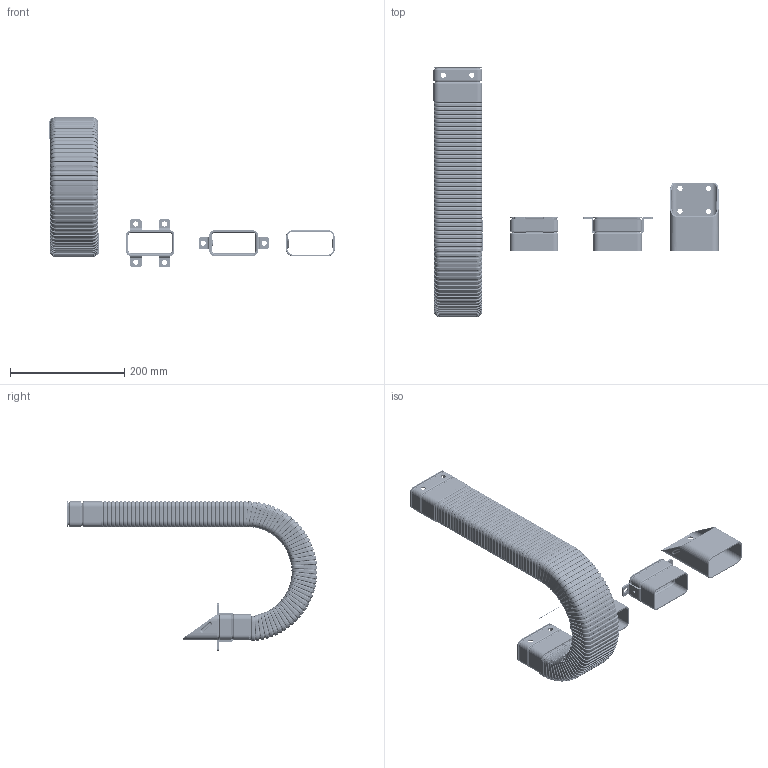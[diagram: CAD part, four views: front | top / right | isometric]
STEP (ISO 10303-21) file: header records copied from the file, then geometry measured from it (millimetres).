
FILE_DESCRIPTION((''),'2;1');
FILE_NAME('C:\Uebbing\PARAMETERKETTEN\SFK\SFK 22 N\SFK 22 N STEP.stp','2013-04-24T08:55:13',('Uebbing'),(''),'Autodesk Inventor 10','Autodesk Inventor 10','');
FILE_SCHEMA(('AUTOMOTIVE_DESIGN { 1 0 10303 214 1 1 1 1 }'));
Length unit declared in the file: millimetre
Products named in the file (11): SFK 22 N STEP; Achse; SFK 22 N Schrägflansch; SFK 22 N Rippe; SFK 22 N Normalanschluss; SFK 22 N Anschluss A; Anschlusswinkel; Imbusschraube M6x5 Senkkopf; SFK 22 N Anschluss B; Rändelmutter M6 flach
Assembly tree (103 placements, depth 3):
  SFK 22 N STEP
    Achse
    SFK 22 N Schrägflansch
    SFK 22 N Rippe  x81
    SFK 22 N Normalanschluss  x2
    SFK 22 N Anschluss A
      SFK 22 N Normalanschluss
      Anschlusswinkel  x4
      Imbusschraube M6x5 Senkkopf  x4
    SFK 22 N Anschluss B
      SFK 22 N Anschluss B
      Imbusschraube M6x5 Senkkopf  x2
      Anschlusswinkel  x2
      Rändelmutter M6 flach  x2
Bounding box: 499.1 x 438.57 x 261.96 mm (x, y, z)
Volume: 374456.2 mm3; surface area: 690047 mm2
Topology: 101 solids, 101 shells, 10314 faces, 22816 edges, 12885 vertices
Faces by surface type: cylinder 4931, plane 2569, bspline 1406, torus 1388, cone 16, sphere 4
Full cylindrical faces by diameter (mm): 1 x1, 6 x10, 6.5 x6, 9 x22, 9.2 x2, 11 x2, 12 x6
Entity records: 19602 total; most frequent: CARTESIAN_POINT 6238, DIRECTION 3060, ORIENTED_EDGE 2428, AXIS2_PLACEMENT_3D 1254, EDGE_CURVE 1214, VERTEX_POINT 710, CIRCLE 646, EDGE_LOOP 630
